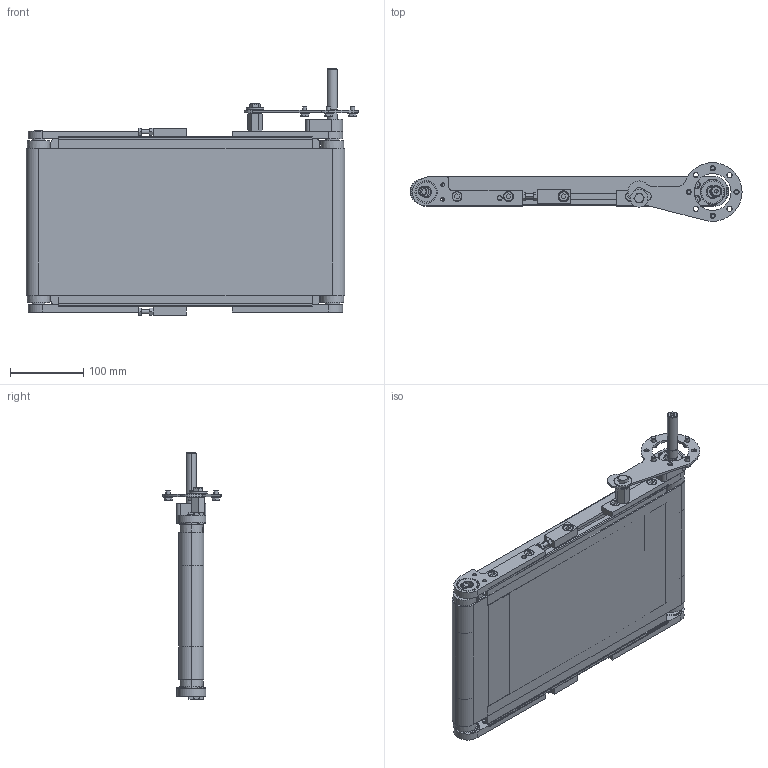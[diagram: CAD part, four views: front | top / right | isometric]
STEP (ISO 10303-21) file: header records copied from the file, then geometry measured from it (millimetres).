
FILE_DESCRIPTION (( 'STEP AP203' ), '1' );
FILE_NAME ('NASTRO_RETTILINEO_TAPPETO.step', '2026-04-30T08:35:49', ( 'Utente Windows' ), ( '' ), 'SwSTEP 2.0', 'SolidWorks 2024', '' );
FILE_SCHEMA (( 'CONFIG_CONTROL_DESIGN' ));
Length unit declared in the file: millimetre
Products named in the file (30): 084.302.000 DADI ALUSIC 13x13-1_084.302.004; 084.802.027; TAPPETO_STANDARD; CUSCINETTI CB_CB 202; 084.301.000 VITI ALUSIC_084.301.002; VITI TE UNI 5739_M8x16 UNI 5739; 62012RSBOMB_62012RSBOMB; BLOCCO_RINVIO_30_STANDARD_SX; VITI TE UNI 5739_M6x10 UNI 5739; NASTRO_RETTILINEO_TAPPETO; RONDELLE FASCIA LARGA UNI 6593_8.4x24 UNI 6593; TELAIO_30_STANDARD_Default<A macchina>; 084.807.005; 084.301.000 VITI ALUSIC_084.301.003; LAMIERA_STANDARD; 084.802.008; 084.801.027 sx; RONDELLE UNI 6592_6.4x12.5 UNI 6592; VITE_RONDELLA_M8X20; BLOCCO_TRAINO_30_STANDARD_SX_MOTORE A SINISTRA; RULLO_30_RINVIO; GRANI A PUNTA PIATTA UNI 5923_M8x20 UNI 5923; 084.301.000 VITI ALUSIC_084.301.011; 084.802.062; 084.801.027 dx; BLOCCO_RINVIO_30_STANDARD_DX; 084.801.025; RULLO_30_TRAINO_30_DX; BLOCCO_TRAINO_30_STANDARD_30_DX_MOTORE A SINISTRA; 084.303.001
Assembly tree (60 placements, depth 3):
  NASTRO_RETTILINEO_TAPPETO
    TAPPETO_STANDARD
    TELAIO_30_STANDARD_Default<A macchina>
    LAMIERA_STANDARD
    RULLO_30_TRAINO_30_DX
    BLOCCO_TRAINO_30_STANDARD_30_DX_MOTORE A SINISTRA
      084.802.027
      084.807.005
      084.801.027 dx
      084.801.025
      CUSCINETTI CB_CB 202
      084.301.000 VITI ALUSIC_084.301.002  x2
      084.302.000 DADI ALUSIC 13x13-1_084.302.004  x2
      084.301.000 VITI ALUSIC_084.301.011  x2
      VITI TE UNI 5739_M8x16 UNI 5739
      RONDELLE FASCIA LARGA UNI 6593_8.4x24 UNI 6593
      GRANI A PUNTA PIATTA UNI 5923_M8x20 UNI 5923
      RONDELLE UNI 6592_6.4x12.5 UNI 6592  x4
      VITI TE UNI 5739_M6x10 UNI 5739  x4
      084.802.062
    BLOCCO_TRAINO_30_STANDARD_SX_MOTORE A SINISTRA
      084.801.027 sx
      62012RSBOMB_62012RSBOMB
      084.302.000 DADI ALUSIC 13x13-1_084.302.004  x2
      084.301.000 VITI ALUSIC_084.301.002  x2
    RULLO_30_RINVIO
    BLOCCO_RINVIO_30_STANDARD_SX
      084.802.008
      084.801.027 sx
      62012RSBOMB_62012RSBOMB
      084.302.000 DADI ALUSIC 13x13-1_084.302.004  x3
      084.301.000 VITI ALUSIC_084.301.002  x2
      084.301.000 VITI ALUSIC_084.301.003
    BLOCCO_RINVIO_30_STANDARD_DX
      084.802.008
      084.801.027 dx
      62012RSBOMB_62012RSBOMB
      084.302.000 DADI ALUSIC 13x13-1_084.302.004  x3
      084.301.000 VITI ALUSIC_084.301.002  x2
      084.301.000 VITI ALUSIC_084.301.003
    VITE_RONDELLA_M8X20  x2
      084.303.001
      084.301.000 VITI ALUSIC_084.301.003
Bounding box: 452 x 80 x 336 mm (x, y, z)
Volume: 1475727.6 mm3; surface area: 989856.1 mm2
Topology: 63 solids, 63 shells, 1467 faces, 3712 edges, 2413 vertices
Faces by surface type: plane 687, cylinder 476, cone 144, torus 96, bspline 44, sphere 20
Entity records: 28298 total; most frequent: CARTESIAN_POINT 5007, DIRECTION 4218, ORIENTED_EDGE 3872, EDGE_CURVE 1936, AXIS2_PLACEMENT_3D 1565, VERTEX_POINT 1264, LINE 1088, VECTOR 1088
